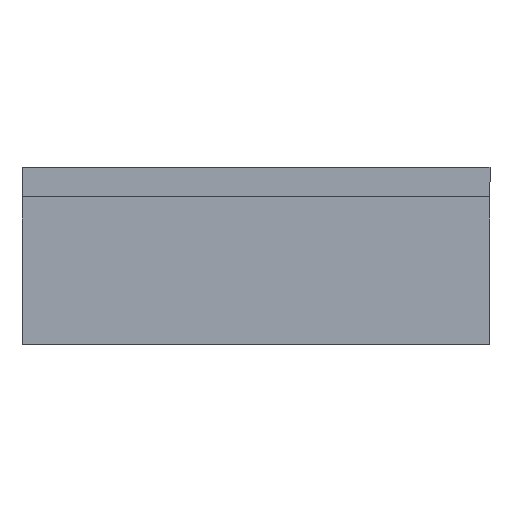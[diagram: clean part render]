
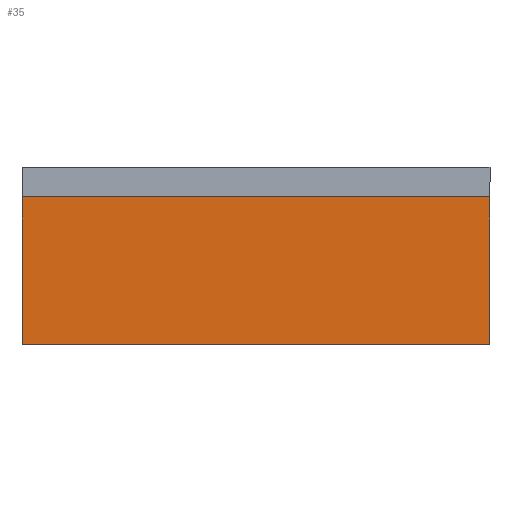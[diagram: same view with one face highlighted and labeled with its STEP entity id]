
A CAD part, left-side view. The second image highlights one B-rep face of the part: STEP entity #35.
In plain terms, the highlighted planar face has unit normal (-1, 0, 0).
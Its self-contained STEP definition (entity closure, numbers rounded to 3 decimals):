
#35 = ADVANCED_FACE('',(#36),#50,.F.);
#36 = FACE_BOUND('',#37,.F.);
#37 = EDGE_LOOP('',(#38,#73,#101,#129));
#38 = ORIENTED_EDGE('',*,*,#39,.F.);
#39 = EDGE_CURVE('',#40,#42,#44,.T.);
#40 = VERTEX_POINT('',#41);
#41 = CARTESIAN_POINT('',(139.,179.2,3.7));
#42 = VERTEX_POINT('',#43);
#43 = CARTESIAN_POINT('',(139.,179.2,13.2));
#44 = SURFACE_CURVE('',#45,(#49,#61),.PCURVE_S1.);
#45 = LINE('',#46,#47);
#46 = CARTESIAN_POINT('',(139.,179.2,3.7));
#47 = VECTOR('',#48,1.);
#48 = DIRECTION('',(0.,0.,1.));
#49 = PCURVE('',#50,#55);
#50 = PLANE('',#51);
#51 = AXIS2_PLACEMENT_3D('',#52,#53,#54);
#52 = CARTESIAN_POINT('',(139.,179.2,3.7));
#53 = DIRECTION('',(1.,0.,-0.));
#54 = DIRECTION('',(0.,0.,1.));
#55 = DEFINITIONAL_REPRESENTATION('',(#56),#60);
#56 = LINE('',#57,#58);
#57 = CARTESIAN_POINT('',(0.,0.));
#58 = VECTOR('',#59,1.);
#59 = DIRECTION('',(1.,0.));
#60 = ( GEOMETRIC_REPRESENTATION_CONTEXT(2) 
PARAMETRIC_REPRESENTATION_CONTEXT() REPRESENTATION_CONTEXT('2D SPACE',''
  ) );
#61 = PCURVE('',#62,#67);
#62 = PLANE('',#63);
#63 = AXIS2_PLACEMENT_3D('',#64,#65,#66);
#64 = CARTESIAN_POINT('',(139.,179.2,3.7));
#65 = DIRECTION('',(-0.,1.,0.));
#66 = DIRECTION('',(0.,0.,1.));
#67 = DEFINITIONAL_REPRESENTATION('',(#68),#72);
#68 = LINE('',#69,#70);
#69 = CARTESIAN_POINT('',(0.,0.));
#70 = VECTOR('',#71,1.);
#71 = DIRECTION('',(1.,0.));
#72 = ( GEOMETRIC_REPRESENTATION_CONTEXT(2) 
PARAMETRIC_REPRESENTATION_CONTEXT() REPRESENTATION_CONTEXT('2D SPACE',''
  ) );
#73 = ORIENTED_EDGE('',*,*,#74,.T.);
#74 = EDGE_CURVE('',#40,#75,#77,.T.);
#75 = VERTEX_POINT('',#76);
#76 = CARTESIAN_POINT('',(139.,182.2,3.7));
#77 = SURFACE_CURVE('',#78,(#82,#89),.PCURVE_S1.);
#78 = LINE('',#79,#80);
#79 = CARTESIAN_POINT('',(139.,179.2,3.7));
#80 = VECTOR('',#81,1.);
#81 = DIRECTION('',(-0.,1.,0.));
#82 = PCURVE('',#50,#83);
#83 = DEFINITIONAL_REPRESENTATION('',(#84),#88);
#84 = LINE('',#85,#86);
#85 = CARTESIAN_POINT('',(0.,0.));
#86 = VECTOR('',#87,1.);
#87 = DIRECTION('',(0.,-1.));
#88 = ( GEOMETRIC_REPRESENTATION_CONTEXT(2) 
PARAMETRIC_REPRESENTATION_CONTEXT() REPRESENTATION_CONTEXT('2D SPACE',''
  ) );
#89 = PCURVE('',#90,#95);
#90 = PLANE('',#91);
#91 = AXIS2_PLACEMENT_3D('',#92,#93,#94);
#92 = CARTESIAN_POINT('',(139.,179.2,3.7));
#93 = DIRECTION('',(0.,0.,1.));
#94 = DIRECTION('',(1.,0.,-0.));
#95 = DEFINITIONAL_REPRESENTATION('',(#96),#100);
#96 = LINE('',#97,#98);
#97 = CARTESIAN_POINT('',(0.,0.));
#98 = VECTOR('',#99,1.);
#99 = DIRECTION('',(0.,1.));
#100 = ( GEOMETRIC_REPRESENTATION_CONTEXT(2) 
PARAMETRIC_REPRESENTATION_CONTEXT() REPRESENTATION_CONTEXT('2D SPACE',''
  ) );
#101 = ORIENTED_EDGE('',*,*,#102,.T.);
#102 = EDGE_CURVE('',#75,#103,#105,.T.);
#103 = VERTEX_POINT('',#104);
#104 = CARTESIAN_POINT('',(139.,182.2,13.2));
#105 = SURFACE_CURVE('',#106,(#110,#117),.PCURVE_S1.);
#106 = LINE('',#107,#108);
#107 = CARTESIAN_POINT('',(139.,182.2,3.7));
#108 = VECTOR('',#109,1.);
#109 = DIRECTION('',(0.,0.,1.));
#110 = PCURVE('',#50,#111);
#111 = DEFINITIONAL_REPRESENTATION('',(#112),#116);
#112 = LINE('',#113,#114);
#113 = CARTESIAN_POINT('',(0.,-3.));
#114 = VECTOR('',#115,1.);
#115 = DIRECTION('',(1.,0.));
#116 = ( GEOMETRIC_REPRESENTATION_CONTEXT(2) 
PARAMETRIC_REPRESENTATION_CONTEXT() REPRESENTATION_CONTEXT('2D SPACE',''
  ) );
#117 = PCURVE('',#118,#123);
#118 = PLANE('',#119);
#119 = AXIS2_PLACEMENT_3D('',#120,#121,#122);
#120 = CARTESIAN_POINT('',(139.,182.2,3.7));
#121 = DIRECTION('',(-0.,1.,0.));
#122 = DIRECTION('',(0.,0.,1.));
#123 = DEFINITIONAL_REPRESENTATION('',(#124),#128);
#124 = LINE('',#125,#126);
#125 = CARTESIAN_POINT('',(0.,0.));
#126 = VECTOR('',#127,1.);
#127 = DIRECTION('',(1.,0.));
#128 = ( GEOMETRIC_REPRESENTATION_CONTEXT(2) 
PARAMETRIC_REPRESENTATION_CONTEXT() REPRESENTATION_CONTEXT('2D SPACE',''
  ) );
#129 = ORIENTED_EDGE('',*,*,#130,.F.);
#130 = EDGE_CURVE('',#42,#103,#131,.T.);
#131 = SURFACE_CURVE('',#132,(#136,#143),.PCURVE_S1.);
#132 = LINE('',#133,#134);
#133 = CARTESIAN_POINT('',(139.,179.2,13.2));
#134 = VECTOR('',#135,1.);
#135 = DIRECTION('',(-0.,1.,0.));
#136 = PCURVE('',#50,#137);
#137 = DEFINITIONAL_REPRESENTATION('',(#138),#142);
#138 = LINE('',#139,#140);
#139 = CARTESIAN_POINT('',(9.5,0.));
#140 = VECTOR('',#141,1.);
#141 = DIRECTION('',(0.,-1.));
#142 = ( GEOMETRIC_REPRESENTATION_CONTEXT(2) 
PARAMETRIC_REPRESENTATION_CONTEXT() REPRESENTATION_CONTEXT('2D SPACE',''
  ) );
#143 = PCURVE('',#144,#149);
#144 = PLANE('',#145);
#145 = AXIS2_PLACEMENT_3D('',#146,#147,#148);
#146 = CARTESIAN_POINT('',(139.,179.2,13.2));
#147 = DIRECTION('',(0.,0.,1.));
#148 = DIRECTION('',(1.,0.,-0.));
#149 = DEFINITIONAL_REPRESENTATION('',(#150),#154);
#150 = LINE('',#151,#152);
#151 = CARTESIAN_POINT('',(0.,0.));
#152 = VECTOR('',#153,1.);
#153 = DIRECTION('',(0.,1.));
#154 = ( GEOMETRIC_REPRESENTATION_CONTEXT(2) 
PARAMETRIC_REPRESENTATION_CONTEXT() REPRESENTATION_CONTEXT('2D SPACE',''
  ) );
